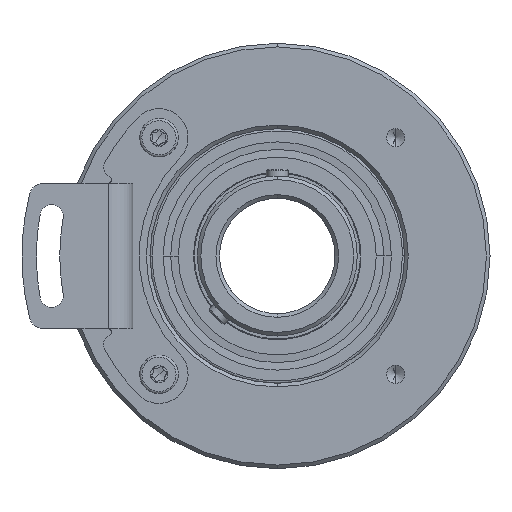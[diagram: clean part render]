
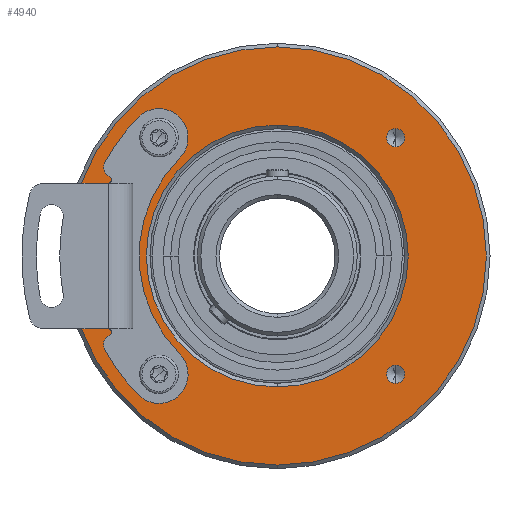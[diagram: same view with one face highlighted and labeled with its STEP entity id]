
A CAD part, front view. The second image highlights one B-rep face of the part: STEP entity #4940.
In plain terms, the highlighted planar face has unit normal (0, -1, 0).
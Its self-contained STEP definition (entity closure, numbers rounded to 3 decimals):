
#242 = AXIS2_PLACEMENT_3D ( 'NONE', #3799, #16651, #6886 ) ;
#258 = DIRECTION ( 'NONE',  ( 0., 0., -1. ) ) ;
#278 = CIRCLE ( 'NONE', #1887, 28.75 ) ;
#340 = EDGE_LOOP ( 'NONE', ( #10183, #13015 ) ) ;
#484 = EDGE_CURVE ( 'NONE', #13146, #12422, #12713, .T. ) ;
#1284 = DIRECTION ( 'NONE',  ( 0., 0., -1. ) ) ;
#1302 = CARTESIAN_POINT ( 'NONE',  ( 0., 0., 0. ) ) ;
#1457 = EDGE_LOOP ( 'NONE', ( #5890, #13237 ) ) ;
#1679 = CARTESIAN_POINT ( 'NONE',  ( 0., 0., 0. ) ) ;
#1887 = AXIS2_PLACEMENT_3D ( 'NONE', #18584, #5422, #20413 ) ;
#2085 = FACE_BOUND ( 'NONE', #4802, .T. ) ;
#2101 = VERTEX_POINT ( 'NONE', #17419 ) ;
#2105 = FACE_BOUND ( 'NONE', #340, .T. ) ;
#2181 = EDGE_LOOP ( 'NONE', ( #11027, #4307 ) ) ;
#2382 = CARTESIAN_POINT ( 'NONE',  ( -16.263, 0., 16.263 ) ) ;
#2407 = CIRCLE ( 'NONE', #6399, 1.25 ) ;
#2412 = EDGE_CURVE ( 'NONE', #2101, #4366, #11230, .T. ) ;
#2464 = AXIS2_PLACEMENT_3D ( 'NONE', #6334, #6262, #13031 ) ;
#2578 = AXIS2_PLACEMENT_3D ( 'NONE', #3419, #8421, #14948 ) ;
#2943 = DIRECTION ( 'NONE',  ( 0., 1., 0. ) ) ;
#2988 = EDGE_CURVE ( 'NONE', #10731, #8210, #20322, .T. ) ;
#3419 = CARTESIAN_POINT ( 'NONE',  ( 0., 0., 0. ) ) ;
#3555 = VERTEX_POINT ( 'NONE', #4792 ) ;
#3679 = CIRCLE ( 'NONE', #242, 1.25 ) ;
#3799 = CARTESIAN_POINT ( 'NONE',  ( 16.263, 0., 16.263 ) ) ;
#4164 = FACE_OUTER_BOUND ( 'NONE', #8026, .T. ) ;
#4173 = CARTESIAN_POINT ( 'NONE',  ( 16.263, 0., -17.513 ) ) ;
#4307 = ORIENTED_EDGE ( 'NONE', *, *, #2988, .F. ) ;
#4366 = VERTEX_POINT ( 'NONE', #19286 ) ;
#4368 = CIRCLE ( 'NONE', #14022, 1.25 ) ;
#4636 = AXIS2_PLACEMENT_3D ( 'NONE', #9358, #20998, #16309 ) ;
#4782 = CARTESIAN_POINT ( 'NONE',  ( 0., 0., -18. ) ) ;
#4792 = CARTESIAN_POINT ( 'NONE',  ( 16.263, 0., 15.013 ) ) ;
#4802 = EDGE_LOOP ( 'NONE', ( #12949, #7721 ) ) ;
#4940 = ADVANCED_FACE ( 'NONE', ( #6982, #2105, #2085, #12898, #9530, #4164 ), #17719, .T. ) ;
#5115 = DIRECTION ( 'NONE',  ( 0., 1., 0. ) ) ;
#5194 = CARTESIAN_POINT ( 'NONE',  ( 16.263, 0., -16.263 ) ) ;
#5422 = DIRECTION ( 'NONE',  ( 0., -1., 0. ) ) ;
#5503 = AXIS2_PLACEMENT_3D ( 'NONE', #2382, #11227, #12355 ) ;
#5890 = ORIENTED_EDGE ( 'NONE', *, *, #12763, .T. ) ;
#6039 = EDGE_CURVE ( 'NONE', #4366, #2101, #9776, .T. ) ;
#6262 = DIRECTION ( 'NONE',  ( 0., -1., 0. ) ) ;
#6334 = CARTESIAN_POINT ( 'NONE',  ( -16.263, 0., 16.263 ) ) ;
#6399 = AXIS2_PLACEMENT_3D ( 'NONE', #5194, #16766, #18362 ) ;
#6414 = AXIS2_PLACEMENT_3D ( 'NONE', #1679, #5115, #11794 ) ;
#6437 = DIRECTION ( 'NONE',  ( 0., 0., -1. ) ) ;
#6686 = CARTESIAN_POINT ( 'NONE',  ( 0., 0., 28.75 ) ) ;
#6886 = DIRECTION ( 'NONE',  ( 0., 0., -1. ) ) ;
#6910 = AXIS2_PLACEMENT_3D ( 'NONE', #18163, #11448, #258 ) ;
#6982 = FACE_BOUND ( 'NONE', #1457, .T. ) ;
#7438 = AXIS2_PLACEMENT_3D ( 'NONE', #11120, #7992, #1284 ) ;
#7721 = ORIENTED_EDGE ( 'NONE', *, *, #15159, .F. ) ;
#7992 = DIRECTION ( 'NONE',  ( 0., -1., 0. ) ) ;
#8026 = EDGE_LOOP ( 'NONE', ( #13279, #16932 ) ) ;
#8210 = VERTEX_POINT ( 'NONE', #20927 ) ;
#8421 = DIRECTION ( 'NONE',  ( 0., -1., 0. ) ) ;
#8469 = EDGE_CURVE ( 'NONE', #8210, #10731, #8810, .T. ) ;
#8810 = CIRCLE ( 'NONE', #6910, 1.25 ) ;
#8996 = CIRCLE ( 'NONE', #15399, 1.25 ) ;
#9358 = CARTESIAN_POINT ( 'NONE',  ( 0., 0., 0. ) ) ;
#9530 = FACE_BOUND ( 'NONE', #13456, .T. ) ;
#9776 = CIRCLE ( 'NONE', #2464, 1.25 ) ;
#9872 = VERTEX_POINT ( 'NONE', #18352 ) ;
#10183 = ORIENTED_EDGE ( 'NONE', *, *, #6039, .F. ) ;
#10467 = CARTESIAN_POINT ( 'NONE',  ( 16.263, 0., 17.513 ) ) ;
#10561 = DIRECTION ( 'NONE',  ( 0., -1., 0. ) ) ;
#10731 = VERTEX_POINT ( 'NONE', #15909 ) ;
#10740 = AXIS2_PLACEMENT_3D ( 'NONE', #1302, #2943, #17905 ) ;
#11027 = ORIENTED_EDGE ( 'NONE', *, *, #8469, .F. ) ;
#11120 = CARTESIAN_POINT ( 'NONE',  ( -16.263, 0., -16.263 ) ) ;
#11227 = DIRECTION ( 'NONE',  ( 0., -1., 0. ) ) ;
#11230 = CIRCLE ( 'NONE', #5503, 1.25 ) ;
#11437 = ORIENTED_EDGE ( 'NONE', *, *, #14665, .F. ) ;
#11448 = DIRECTION ( 'NONE',  ( 0., -1., 0. ) ) ;
#11586 = VERTEX_POINT ( 'NONE', #10467 ) ;
#11711 = VERTEX_POINT ( 'NONE', #17441 ) ;
#11794 = DIRECTION ( 'NONE',  ( 0., 0., -1. ) ) ;
#12355 = DIRECTION ( 'NONE',  ( 0., 0., -1. ) ) ;
#12422 = VERTEX_POINT ( 'NONE', #4782 ) ;
#12713 = CIRCLE ( 'NONE', #6414, 18. ) ;
#12763 = EDGE_CURVE ( 'NONE', #12422, #13146, #15991, .T. ) ;
#12898 = FACE_BOUND ( 'NONE', #2181, .T. ) ;
#12928 = VERTEX_POINT ( 'NONE', #6686 ) ;
#12949 = ORIENTED_EDGE ( 'NONE', *, *, #15511, .F. ) ;
#13015 = ORIENTED_EDGE ( 'NONE', *, *, #2412, .F. ) ;
#13031 = DIRECTION ( 'NONE',  ( 0., 0., -1. ) ) ;
#13061 = DIRECTION ( 'NONE',  ( 0., -1., 0. ) ) ;
#13146 = VERTEX_POINT ( 'NONE', #16954 ) ;
#13237 = ORIENTED_EDGE ( 'NONE', *, *, #484, .T. ) ;
#13279 = ORIENTED_EDGE ( 'NONE', *, *, #20540, .T. ) ;
#13456 = EDGE_LOOP ( 'NONE', ( #13738, #11437 ) ) ;
#13738 = ORIENTED_EDGE ( 'NONE', *, *, #20662, .F. ) ;
#14022 = AXIS2_PLACEMENT_3D ( 'NONE', #17186, #10561, #20676 ) ;
#14665 = EDGE_CURVE ( 'NONE', #9872, #15801, #2407, .T. ) ;
#14948 = DIRECTION ( 'NONE',  ( 0., 0., -1. ) ) ;
#15159 = EDGE_CURVE ( 'NONE', #11586, #3555, #3679, .T. ) ;
#15399 = AXIS2_PLACEMENT_3D ( 'NONE', #16316, #13061, #6437 ) ;
#15511 = EDGE_CURVE ( 'NONE', #3555, #11586, #8996, .T. ) ;
#15801 = VERTEX_POINT ( 'NONE', #4173 ) ;
#15909 = CARTESIAN_POINT ( 'NONE',  ( -16.263, 0., -15.013 ) ) ;
#15991 = CIRCLE ( 'NONE', #10740, 18. ) ;
#16309 = DIRECTION ( 'NONE',  ( 0., 0., -1. ) ) ;
#16316 = CARTESIAN_POINT ( 'NONE',  ( 16.263, 0., 16.263 ) ) ;
#16380 = EDGE_CURVE ( 'NONE', #11711, #12928, #18530, .T. ) ;
#16651 = DIRECTION ( 'NONE',  ( 0., -1., 0. ) ) ;
#16766 = DIRECTION ( 'NONE',  ( 0., -1., 0. ) ) ;
#16932 = ORIENTED_EDGE ( 'NONE', *, *, #16380, .T. ) ;
#16954 = CARTESIAN_POINT ( 'NONE',  ( 0., 0., 18. ) ) ;
#17186 = CARTESIAN_POINT ( 'NONE',  ( 16.263, 0., -16.263 ) ) ;
#17419 = CARTESIAN_POINT ( 'NONE',  ( -16.263, 0., 17.513 ) ) ;
#17441 = CARTESIAN_POINT ( 'NONE',  ( 0., 0., -28.75 ) ) ;
#17719 = PLANE ( 'NONE',  #4636 ) ;
#17905 = DIRECTION ( 'NONE',  ( 0., 0., -1. ) ) ;
#18163 = CARTESIAN_POINT ( 'NONE',  ( -16.263, 0., -16.263 ) ) ;
#18352 = CARTESIAN_POINT ( 'NONE',  ( 16.263, 0., -15.013 ) ) ;
#18362 = DIRECTION ( 'NONE',  ( 0., 0., -1. ) ) ;
#18530 = CIRCLE ( 'NONE', #2578, 28.75 ) ;
#18584 = CARTESIAN_POINT ( 'NONE',  ( 0., 0., 0. ) ) ;
#19286 = CARTESIAN_POINT ( 'NONE',  ( -16.263, 0., 15.013 ) ) ;
#20322 = CIRCLE ( 'NONE', #7438, 1.25 ) ;
#20413 = DIRECTION ( 'NONE',  ( 0., 0., -1. ) ) ;
#20540 = EDGE_CURVE ( 'NONE', #12928, #11711, #278, .T. ) ;
#20662 = EDGE_CURVE ( 'NONE', #15801, #9872, #4368, .T. ) ;
#20676 = DIRECTION ( 'NONE',  ( 0., 0., -1. ) ) ;
#20927 = CARTESIAN_POINT ( 'NONE',  ( -16.263, 0., -17.513 ) ) ;
#20998 = DIRECTION ( 'NONE',  ( 0., -1., 0. ) ) ;
